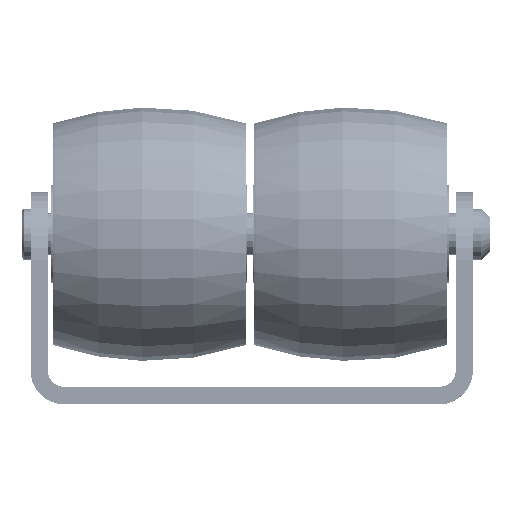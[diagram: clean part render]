
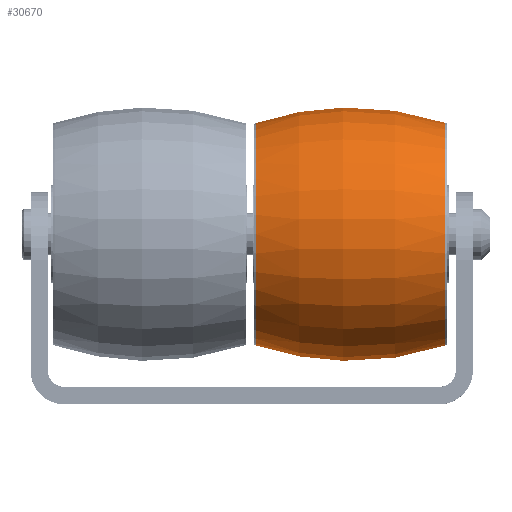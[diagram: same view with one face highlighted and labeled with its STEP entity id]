
A CAD part, front view. The second image highlights one B-rep face of the part: STEP entity #30670.
In plain terms, the highlighted toroidal (fillet/blend) face has major radius 20.11 mm and minor radius 35 mm.
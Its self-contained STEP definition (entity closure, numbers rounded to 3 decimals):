
#20=DEGENERATE_TOROIDAL_SURFACE('',#33887,20.11,35.,.F.);
#3656=CIRCLE('',#33884,13.08);
#3657=CIRCLE('',#33886,13.08);
#12453=ORIENTED_EDGE('',*,*,#16865,.F.);
#12454=ORIENTED_EDGE('',*,*,#16866,.F.);
#16865=EDGE_CURVE('',#19888,#19888,#3656,.T.);
#16866=EDGE_CURVE('',#19889,#19889,#3657,.T.);
#19888=VERTEX_POINT('',#53426);
#19889=VERTEX_POINT('',#53429);
#26427=EDGE_LOOP('',(#12453));
#26428=EDGE_LOOP('',(#12454));
#28399=FACE_BOUND('',#26427,.T.);
#28400=FACE_BOUND('',#26428,.T.);
#30670=ADVANCED_FACE('',(#28399,#28400),#20,.F.);
#33884=AXIS2_PLACEMENT_3D('',#53425,#42678,#42679);
#33886=AXIS2_PLACEMENT_3D('',#53428,#42682,#42683);
#33887=AXIS2_PLACEMENT_3D('',#53430,#42684,#42685);
#42678=DIRECTION('',(1.,0.,0.));
#42679=DIRECTION('',(0.,0.,-1.));
#42682=DIRECTION('',(-1.,0.,0.));
#42683=DIRECTION('',(0.,0.,1.));
#42684=DIRECTION('',(1.,0.,0.));
#42685=DIRECTION('',(0.,0.,-1.));
#53425=CARTESIAN_POINT('',(-0.388,0.,0.));
#53426=CARTESIAN_POINT('',(-0.388,0.,-13.08));
#53428=CARTESIAN_POINT('',(-22.612,0.,0.));
#53429=CARTESIAN_POINT('',(-22.612,0.,13.08));
#53430=CARTESIAN_POINT('',(-11.5,0.,0.));
